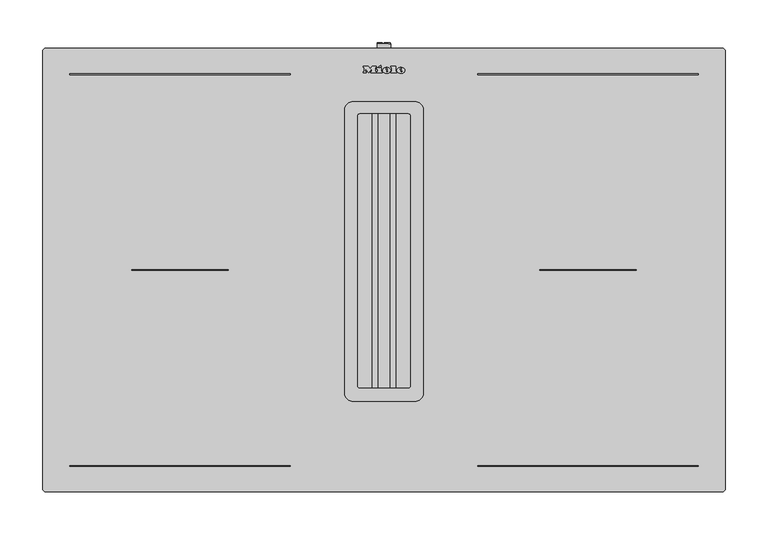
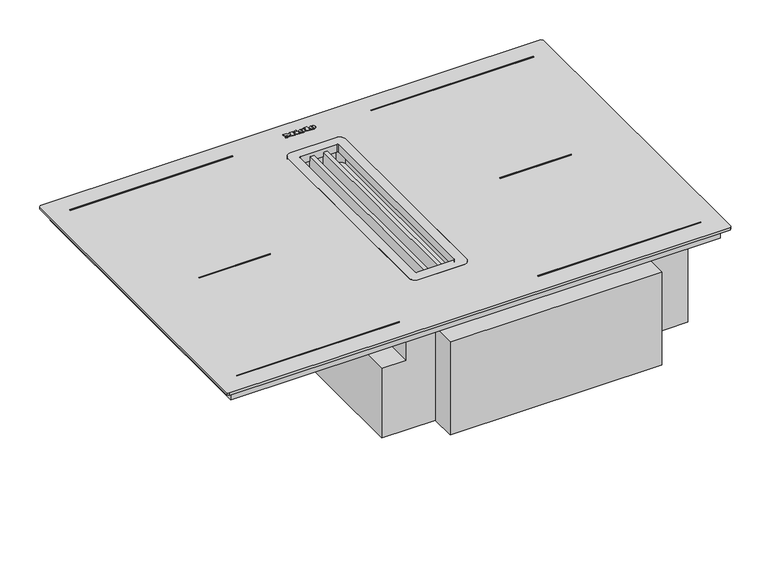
"""IFC4 building model written with IfcOpenShell, lengths in millimetres: proxy geometry, 12904890_BNI_KMDA7876-1FL : 26787675_BNI_12904890_KMDA7876-1FL."""

from ifc_helpers import new_model, si_unit, point, frame, frame_2d, origin, origin_with_axes, place, context, project, spatial, polyline, circle_curve, ellipse_curve, trimmed, segment, composite_curve, outline, extrude, source, transform, mapped, element, save
from ifc_brep_helpers import plane_surface, cylinder_surface, revolved_surface, extruded_surface, advanced_brep


def specialty_equipment_94e3bbb6(model_context):
    return source(origin(), model_context, "Body", "SolidModel", [
        advanced_brep(
        [(19.088016, 492.896, 5.0), (19.088016, 493.704, 5.0), (24.440016, 493.704, 5.0), (15.128016, 493.704, 5.0), (17.328016, 491.0, 5.0), (24.304016, 492.896, 5.0), (21.888016, 492.896, 5.0), (19.984016, 492.0, 5.0), (19.088016, 494.728, 5.0), (19.088016, 495.6, 5.0), (20.456016, 495.6, 5.0), (20.456016, 494.728, 5.0), (19.088016, 492.896, 4.0), (19.984016, 492.0, 4.0), (21.888016, 492.896, 4.0), (24.304016, 492.896, 4.0), (17.328016, 491.0, 4.0), (15.128016, 493.704, 4.0), (24.440016, 493.704, 4.0), (19.088016, 493.704, 4.0), (19.088016, 494.728, 4.0), (20.456016, 494.728, 4.0), (20.456016, 495.6, 4.0), (19.088016, 495.6, 4.0)],
        [
            (0, 1),
            (1, 2),
            (2, 3, ellipse_curve(frame((19.784016, 493.704, 5.0), z_axis=(0.0, 0.0, 1.0), x_axis=(-1.0, 0.0, 0.0)), 4.656, 3.848)),
            (3, 4, circle_curve(frame((18.2240596, 493.976, 5.0), z_axis=(0.0, 0.0, 1.0), x_axis=(0.0, -1.0, 0.0)), 3.1079688)),
            (4, 5, circle_curve(frame((19.6908096, 496.088, 5.0), z_axis=(0.0, 0.0, 1.0), x_axis=(0.0, -1.0, 0.0)), 5.6098607)),
            (5, 6),
            (6, 7, circle_curve(frame((20.3750748, 493.64, 5.0), z_axis=(0.0, 0.0, -1.0), x_axis=(0.0, -1.0, 0.0)), 1.6859795)),
            (7, 0, circle_curve(frame((19.984016, 492.896, 5.0), z_axis=(0.0, 0.0, -1.0), x_axis=(0.0, -1.0, 0.0)), 0.896)),
            (8, 9),
            (9, 10, circle_curve(frame((19.772016, 495.6, 5.0), z_axis=(0.0, 0.0, -1.0), x_axis=(0.0, -1.0, 0.0)), 0.684)),
            (10, 11),
            (11, 8),
            (12, 13, circle_curve(frame((19.984016, 492.896, 4.0), z_axis=(0.0, 0.0, 1.0), x_axis=(0.0, -1.0, 0.0)), 0.896)),
            (13, 14, circle_curve(frame((20.3750748, 493.64, 4.0), z_axis=(0.0, 0.0, 1.0), x_axis=(0.0, -1.0, 0.0)), 1.6859795)),
            (14, 15),
            (15, 16, circle_curve(frame((19.6908096, 496.088, 4.0), z_axis=(0.0, 0.0, -1.0), x_axis=(0.0, -1.0, 0.0)), 5.6098607)),
            (16, 17, circle_curve(frame((18.2240596, 493.976, 4.0), z_axis=(0.0, 0.0, -1.0), x_axis=(0.0, -1.0, 0.0)), 3.1079688)),
            (17, 18, ellipse_curve(frame((19.784016, 493.704, 4.0), z_axis=(0.0, 0.0, -1.0), x_axis=(-1.0, 0.0, 0.0)), 4.656, 3.848)),
            (18, 19),
            (19, 12),
            (20, 21),
            (21, 22),
            (22, 23, circle_curve(frame((19.772016, 495.6, 4.0), z_axis=(0.0, 0.0, 1.0), x_axis=(0.0, -1.0, 0.0)), 0.684)),
            (23, 20),
            (0, 12),
            (19, 1),
            (18, 2),
            (5, 15),
            (14, 6),
            (17, 3),
            (13, 7),
            (16, 4),
            (8, 20),
            (23, 9),
            (22, 10),
            (21, 11),
        ],
        [
            plane_surface(frame((19.088016, 493.704, 5.0), z_axis=(0.0, 0.0, 1.0), x_axis=(0.0, 1.0, 0.0))),
            plane_surface(frame((19.088016, 493.704, 4.0), z_axis=(0.0, 0.0, -1.0), x_axis=(0.0, -1.0, 0.0))),
            plane_surface(frame((19.088016, 492.896, 5.0), z_axis=(1.0, 0.0, 0.0), x_axis=(0.0, 0.0, -1.0))),
            plane_surface(frame((19.088016, 493.704, 5.0), z_axis=(0.0, -1.0, 0.0), x_axis=(0.0, 0.0, -1.0))),
            plane_surface(frame((24.304016, 492.896, 5.0), z_axis=(0.0, 1.0, 0.0), x_axis=(0.0, 0.0, -1.0))),
            extruded_surface(trimmed(ellipse_curve(frame((19.784016, 493.704, 3.0), z_axis=(0.0, 0.0, 1.0), x_axis=(-1.0, 0.0, 0.0)), 4.656, 3.848), [point((24.440016, 493.704, 3.0))], [point((15.128016, 493.704, 3.0))], True, "CARTESIAN"), (0.0, 0.0, 1.0), 1.0),
            revolved_surface(polyline([(20.3750748, 491.9540205, 4.0), (20.3750748, 491.9540205, 5.0)]), (20.3750748, 493.64, 4.0), (0.0, 0.0, -1.0)),
            revolved_surface(polyline([(19.984016, 492.0, 4.0), (19.984016, 492.0, 5.0)]), (19.984016, 492.896, 4.0), (0.0, 0.0, -1.0)),
            cylinder_surface(frame((18.2240596, 493.976, 4.0), z_axis=(0.0, 0.0, 1.0), x_axis=(0.0, -1.0, 0.0)), 3.1079688),
            cylinder_surface(frame((19.6908096, 496.088, 4.0), z_axis=(0.0, 0.0, 1.0), x_axis=(0.0, -1.0, 0.0)), 5.6098607),
            plane_surface(frame((19.088016, 494.728, 5.0), z_axis=(1.0, 0.0, 0.0), x_axis=(0.0, 0.0, -1.0))),
            revolved_surface(polyline([(19.772016, 494.916, 4.0), (19.772016, 494.916, 5.0)]), (19.772016, 495.6, 4.0), (0.0, 0.0, -1.0)),
            plane_surface(frame((20.456016, 495.6, 5.0), z_axis=(-1.0, 0.0, 0.0), x_axis=(0.0, 0.0, -1.0))),
            plane_surface(frame((20.456016, 494.728, 5.0), z_axis=(0.0, 1.0, 0.0), x_axis=(0.0, 0.0, -1.0))),
        ],
        [
            (0, [[1, 2, 3, 4, 5, 6, 7, 8], [9, 10, 11, 12]]),
            (1, [[13, 14, 15, 16, 17, 18, 19, 20], [21, 22, 23, 24]]),
            (2, [[-1, 25, -20, 26]]),
            (3, [[-2, -26, -19, 27]]),
            (4, [[-6, 28, -15, 29]]),
            (5, [[-3, -27, -18, 30]]),
            (6, [[-7, -29, -14, 31]]),
            (7, [[-8, -31, -13, -25]]),
            (8, [[-4, -30, -17, 32]]),
            (9, [[-5, -32, -16, -28]]),
            (10, [[-9, 33, -24, 34]]),
            (11, [[-10, -34, -23, 35]]),
            (12, [[-11, -35, -22, 36]]),
            (13, [[-12, -36, -21, -33]]),
        ],
    ),
        advanced_brep(
        [(2.392016, 492.896, 5.0), (2.392016, 493.704, 5.0), (7.744016, 493.704, 5.0), (-1.567984, 493.704, 5.0), (0.632016, 491.0, 5.0), (7.608016, 492.896, 5.0), (5.192016, 492.896, 5.0), (3.288016, 492.0, 5.0), (2.392016, 494.728, 5.0), (2.392016, 495.6, 5.0), (3.760016, 495.6, 5.0), (3.760016, 494.728, 5.0), (2.392016, 492.896, 4.0), (3.288016, 492.0, 4.0), (5.192016, 492.896, 4.0), (7.608016, 492.896, 4.0), (0.632016, 491.0, 4.0), (-1.567984, 493.704, 4.0), (7.744016, 493.704, 4.0), (2.392016, 493.704, 4.0), (2.392016, 494.728, 4.0), (3.760016, 494.728, 4.0), (3.760016, 495.6, 4.0), (2.392016, 495.6, 4.0)],
        [
            (0, 1),
            (1, 2),
            (2, 3, ellipse_curve(frame((3.088016, 493.704, 5.0), z_axis=(0.0, 0.0, 1.0), x_axis=(-1.0, 0.0, 0.0)), 4.656, 3.848)),
            (3, 4, circle_curve(frame((1.5280596, 493.976, 5.0), z_axis=(0.0, 0.0, 1.0), x_axis=(0.0, -1.0, 0.0)), 3.1079688)),
            (4, 5, circle_curve(frame((2.9948096, 496.088, 5.0), z_axis=(0.0, 0.0, 1.0), x_axis=(0.0, -1.0, 0.0)), 5.6098607)),
            (5, 6),
            (6, 7, circle_curve(frame((3.6790748, 493.64, 5.0), z_axis=(0.0, 0.0, -1.0), x_axis=(0.0, -1.0, 0.0)), 1.6859795)),
            (7, 0, circle_curve(frame((3.288016, 492.896, 5.0), z_axis=(0.0, 0.0, -1.0), x_axis=(0.0, -1.0, 0.0)), 0.896)),
            (8, 9),
            (9, 10, circle_curve(frame((3.076016, 495.6, 5.0), z_axis=(0.0, 0.0, -1.0), x_axis=(0.0, -1.0, 0.0)), 0.684)),
            (10, 11),
            (11, 8),
            (12, 13, circle_curve(frame((3.288016, 492.896, 4.0), z_axis=(0.0, 0.0, 1.0), x_axis=(0.0, -1.0, 0.0)), 0.896)),
            (13, 14, circle_curve(frame((3.6790748, 493.64, 4.0), z_axis=(0.0, 0.0, 1.0), x_axis=(0.0, -1.0, 0.0)), 1.6859795)),
            (14, 15),
            (15, 16, circle_curve(frame((2.9948096, 496.088, 4.0), z_axis=(0.0, 0.0, -1.0), x_axis=(0.0, -1.0, 0.0)), 5.6098607)),
            (16, 17, circle_curve(frame((1.5280596, 493.976, 4.0), z_axis=(0.0, 0.0, -1.0), x_axis=(0.0, -1.0, 0.0)), 3.1079688)),
            (17, 18, ellipse_curve(frame((3.088016, 493.704, 4.0), z_axis=(0.0, 0.0, -1.0), x_axis=(-1.0, 0.0, 0.0)), 4.656, 3.848)),
            (18, 19),
            (19, 12),
            (20, 21),
            (21, 22),
            (22, 23, circle_curve(frame((3.076016, 495.6, 4.0), z_axis=(0.0, 0.0, 1.0), x_axis=(0.0, -1.0, 0.0)), 0.684)),
            (23, 20),
            (0, 12),
            (19, 1),
            (18, 2),
            (5, 15),
            (14, 6),
            (17, 3),
            (13, 7),
            (16, 4),
            (8, 20),
            (23, 9),
            (22, 10),
            (21, 11),
        ],
        [
            plane_surface(frame((2.392016, 493.704, 5.0), z_axis=(0.0, 0.0, 1.0), x_axis=(0.0, 1.0, 0.0))),
            plane_surface(frame((2.392016, 493.704, 4.0), z_axis=(0.0, 0.0, -1.0), x_axis=(0.0, -1.0, 0.0))),
            plane_surface(frame((2.392016, 492.896, 5.0), z_axis=(1.0, 0.0, 0.0), x_axis=(0.0, 0.0, -1.0))),
            plane_surface(frame((2.392016, 493.704, 5.0), z_axis=(0.0, -1.0, 0.0), x_axis=(0.0, 0.0, -1.0))),
            plane_surface(frame((7.608016, 492.896, 5.0), z_axis=(0.0, 1.0, 0.0), x_axis=(0.0, 0.0, -1.0))),
            extruded_surface(trimmed(ellipse_curve(frame((3.088016, 493.704, 3.0), z_axis=(0.0, 0.0, 1.0), x_axis=(-1.0, 0.0, 0.0)), 4.656, 3.848), [point((7.744016, 493.704, 3.0))], [point((-1.567984, 493.704, 3.0))], True, "CARTESIAN"), (0.0, 0.0, 1.0), 1.0),
            revolved_surface(polyline([(3.6790748, 491.9540205, 4.0), (3.6790748, 491.9540205, 5.0)]), (3.6790748, 493.64, 4.0), (0.0, 0.0, -1.0)),
            revolved_surface(polyline([(3.288016, 492.0, 4.0), (3.288016, 492.0, 5.0)]), (3.288016, 492.896, 4.0), (0.0, 0.0, -1.0)),
            cylinder_surface(frame((1.5280596, 493.976, 4.0), z_axis=(0.0, 0.0, 1.0), x_axis=(0.0, -1.0, 0.0)), 3.1079688),
            cylinder_surface(frame((2.9948096, 496.088, 4.0), z_axis=(0.0, 0.0, 1.0), x_axis=(0.0, -1.0, 0.0)), 5.6098607),
            plane_surface(frame((2.392016, 494.728, 5.0), z_axis=(1.0, 0.0, 0.0), x_axis=(0.0, 0.0, -1.0))),
            revolved_surface(polyline([(3.076016, 494.916, 4.0), (3.076016, 494.916, 5.0)]), (3.076016, 495.6, 4.0), (0.0, 0.0, -1.0)),
            plane_surface(frame((3.760016, 495.6, 5.0), z_axis=(-1.0, 0.0, 0.0), x_axis=(0.0, 0.0, -1.0))),
            plane_surface(frame((3.760016, 494.728, 5.0), z_axis=(0.0, 1.0, 0.0), x_axis=(0.0, 0.0, -1.0))),
        ],
        [
            (0, [[1, 2, 3, 4, 5, 6, 7, 8], [9, 10, 11, 12]]),
            (1, [[13, 14, 15, 16, 17, 18, 19, 20], [21, 22, 23, 24]]),
            (2, [[-1, 25, -20, 26]]),
            (3, [[-2, -26, -19, 27]]),
            (4, [[-6, 28, -15, 29]]),
            (5, [[-3, -27, -18, 30]]),
            (6, [[-7, -29, -14, 31]]),
            (7, [[-8, -31, -13, -25]]),
            (8, [[-4, -30, -17, 32]]),
            (9, [[-5, -32, -16, -28]]),
            (10, [[-9, 33, -24, 34]]),
            (11, [[-10, -34, -23, 35]]),
            (12, [[-11, -35, -22, 36]]),
            (13, [[-12, -36, -21, -33]]),
        ],
    ),
        extrude(outline(polyline([(-6.351984, 498.528), (-3.631984, 499.792), (-3.031984, 498.496), (-5.743984, 497.232), (-6.351984, 498.528)])), frame((0.0, 0.0, 4.0), z_axis=(0.0, 0.0, 1.0), x_axis=(1.0, 0.0, 0.0)), (0.0, 0.0, 1.0), 1.0),
        extrude(outline(polyline([(-8.327984, 497.056), (-2.943984, 497.056), (-2.943984, 492.344), (-2.015984, 492.344), (-2.015984, 491.0), (-8.327984, 491.0), (-8.327984, 492.344), (-7.375984, 492.344), (-7.375984, 495.624), (-8.327984, 495.624), (-8.327984, 497.056)])), frame((0.0, 0.0, 4.0), z_axis=(0.0, 0.0, 1.0), x_axis=(1.0, 0.0, 0.0)), (0.0, 0.0, 1.0), 1.0),
        extrude(outline(polyline([(8.192016, 497.696), (8.192016, 499.0), (13.696016, 499.0), (13.696016, 492.344), (14.680016, 492.344), (14.680016, 491.0), (8.192016, 491.0), (8.192016, 492.344), (9.152016, 492.344), (9.152016, 497.696), (8.192016, 497.696)])), frame((0.0, 0.0, 4.0), z_axis=(0.0, 0.0, 1.0), x_axis=(1.0, 0.0, 0.0)), (0.0, 0.0, 1.0), 1.0),
        extrude(outline(polyline([(-24.271984, 497.696), (-24.271984, 499.0), (-18.695984, 499.0), (-16.351984, 496.0), (-14.015984, 499.0), (-9.143984, 499.0), (-9.143984, 497.696), (-10.159984, 497.696), (-10.159984, 492.344), (-9.143984, 492.344), (-9.143984, 491.0), (-15.527984, 491.0), (-15.527984, 492.344), (-14.543984, 492.344), (-14.543984, 495.8152223), (-18.135984, 491.0), (-21.711984, 495.7471247), (-21.711984, 492.344), (-20.751984, 492.344), (-20.751984, 491.0), (-24.271984, 491.0), (-24.271984, 492.344), (-23.303984, 492.344), (-23.303984, 497.696), (-24.271984, 497.696)])), frame((0.0, 0.0, 4.0), z_axis=(0.0, 0.0, 1.0), x_axis=(1.0, 0.0, 0.0)), (0.0, 0.0, 1.0), 1.0),
        extrude(outline(polyline([(-368.065788, 489.8634331), (-110.065788, 489.8634331), (-110.065788, 489.0732086), (-368.065788, 489.0732086), (-368.065788, 489.8634331)])), frame((0.0, 0.0, 4.0), z_axis=(0.0, 0.0, 1.0), x_axis=(1.0, 0.0, 0.0)), (0.0, 0.0, 1.0), 1.0),
        extrude(outline(polyline([(368.065788, 489.8634331), (368.065788, 489.0732086), (110.065788, 489.0732086), (110.065788, 489.8634331), (368.065788, 489.8634331)])), frame((0.0, 0.0, 4.0), z_axis=(0.0, 0.0, 1.0), x_axis=(1.0, 0.0, 0.0)), (0.0, 0.0, 1.0), 1.0),
        extrude(outline(polyline([(-368.065788, 30.1365667), (-368.065788, 30.9267912), (-110.065788, 30.9267912), (-110.065788, 30.1365667), (-368.065788, 30.1365667)])), frame((0.0, 0.0, 4.0), z_axis=(0.0, 0.0, 1.0), x_axis=(1.0, 0.0, 0.0)), (0.0, 0.0, 1.0), 1.0),
        extrude(outline(polyline([(368.065788, 30.1365667), (110.065788, 30.1365667), (110.065788, 30.9267912), (368.065788, 30.9267912), (368.065788, 30.1365667)])), frame((0.0, 0.0, 4.0), z_axis=(0.0, 0.0, 1.0), x_axis=(1.0, 0.0, 0.0)), (0.0, 0.0, 1.0), 1.0),
        extrude(outline(polyline([(-295.5, 260.3951122), (-182.5, 260.3951122), (-182.5, 259.6048876), (-295.5, 259.6048876), (-295.5, 260.3951122)])), frame((0.0, 0.0, 4.0), z_axis=(0.0, 0.0, 1.0), x_axis=(1.0, 0.0, 0.0)), (0.0, 0.0, 1.0), 1.0),
        extrude(outline(polyline([(295.5, 260.3951122), (295.5, 259.6048876), (182.5, 259.6048876), (182.5, 260.3951122), (295.5, 260.3951122)])), frame((0.0, 0.0, 4.0), z_axis=(0.0, 0.0, 1.0), x_axis=(1.0, 0.0, 0.0)), (0.0, 0.0, 1.0), 1.0),
        extrude(outline(composite_curve([segment(polyline([(-45.9999987, 115.9999992), (-45.9999987, 447.4999992)]), True, "CONTINUOUS"), segment(trimmed(circle_curve(frame_2d((-35.9999987, 447.4999992)), 10.0), [point((-45.9999987, 447.4999992))], [point((-35.9999987, 457.4999992))], False, "CARTESIAN"), True, "CONTINUOUS"), segment(polyline([(-35.9999987, 457.4999992), (35.9999987, 457.4999992)]), True, "CONTINUOUS"), segment(trimmed(circle_curve(frame_2d((35.9999987, 447.4999992)), 10.0), [point((35.9999987, 457.4999992))], [point((45.9999987, 447.4999992))], False, "CARTESIAN"), True, "CONTINUOUS"), segment(polyline([(45.9999987, 447.4999992), (45.9999987, 115.9999992)]), True, "CONTINUOUS"), segment(trimmed(circle_curve(frame_2d((35.9999987, 115.9999992)), 10.0), [point((45.9999987, 115.9999992))], [point((35.9999987, 105.9999992))], False, "CARTESIAN"), True, "CONTINUOUS"), segment(polyline([(35.9999987, 105.9999992), (-35.9999987, 105.9999992)]), True, "CONTINUOUS"), segment(trimmed(circle_curve(frame_2d((-35.9999987, 115.9999992)), 10.0), [point((-35.9999987, 105.9999992))], [point((-45.9999987, 115.9999992))], False, "CARTESIAN"), True, "CONTINUOUS")], self_intersect=False), holes=[composite_curve([segment(trimmed(circle_curve(frame_2d((-28.688139, 124.1576538)), 2.0), [point((-30.688139, 124.1576538))], [point((-28.688139, 122.1576538))], True, "CARTESIAN"), True, "CONTINUOUS"), segment(polyline([(-28.688139, 122.1576538), (28.688139, 122.1576538)]), True, "CONTINUOUS"), segment(trimmed(circle_curve(frame_2d((28.688139, 124.1576538)), 2.0), [point((28.688139, 122.1576538))], [point((30.688139, 124.1576538))], True, "CARTESIAN"), True, "CONTINUOUS"), segment(polyline([(30.688139, 124.1576538), (30.688139, 440.9186707)]), True, "CONTINUOUS"), segment(trimmed(circle_curve(frame_2d((28.688139, 440.9186707)), 2.0), [point((30.688139, 440.9186707))], [point((28.688139, 442.9186707))], True, "CARTESIAN"), True, "CONTINUOUS"), segment(polyline([(28.688139, 442.9186707), (-28.688139, 442.9186707)]), True, "CONTINUOUS"), segment(trimmed(circle_curve(frame_2d((-28.688139, 440.9186707)), 2.0), [point((-28.688139, 442.9186707))], [point((-30.688139, 440.9186707))], True, "CARTESIAN"), True, "CONTINUOUS"), segment(polyline([(-30.688139, 440.9186707), (-30.688139, 124.1576538)]), True, "CONTINUOUS")], self_intersect=False)]), frame((0.0, 0.0, -8.5215403), z_axis=(0.0, 0.0, 1.0), x_axis=(1.0, 0.0, 0.0)), (0.0, 0.0, 1.0), 12.5215403),
        extrude(outline(polyline([(-343.1216701, 96.3863349), (-343.1216701, 495.0), (-75.402586, 495.0), (-75.402586, 96.3863349), (-343.1216701, 96.3863349)])), frame((0.0, 0.0, -46.5), z_axis=(0.0, 0.0, 1.0), x_axis=(1.0, 0.0, 0.0)), (0.0, 0.0, 1.0), 28.6958097),
        extrude(outline(polyline([(336.1107845, 495.0), (336.1107845, 96.3863349), (104.0, 96.3863349), (104.0, 495.0), (336.1107845, 495.0)])), frame((0.0, 0.0, -46.5), z_axis=(0.0, 0.0, 1.0), x_axis=(1.0, 0.0, 0.0)), (0.0, 0.0, 1.0), 28.6958097),
        extrude(outline(polyline([(388.5, 508.4999986), (388.5, 11.4999971), (-388.5, 11.4999971), (-388.5, 508.4999986), (388.5, 508.4999986)]), holes=[composite_curve([segment(polyline([(45.9999987, 115.9999979), (45.9999987, 447.4999992)]), True, "CONTINUOUS"), segment(trimmed(circle_curve(frame_2d((35.9999987, 447.4999992)), 10.0), [point((45.9999987, 447.4999992))], [point((35.9999987, 457.4999992))], True, "CARTESIAN"), True, "CONTINUOUS"), segment(polyline([(35.9999987, 457.4999992), (-35.9999987, 457.4999992)]), True, "CONTINUOUS"), segment(trimmed(circle_curve(frame_2d((-35.9999987, 447.4999992)), 10.0), [point((-35.9999987, 457.4999992))], [point((-45.9999987, 447.4999992))], True, "CARTESIAN"), True, "CONTINUOUS"), segment(polyline([(-45.9999987, 447.4999992), (-45.9999987, 115.9999979)]), True, "CONTINUOUS"), segment(trimmed(circle_curve(frame_2d((-36.0, 115.9999979)), 9.9999987), [point((-45.9999987, 115.9999979))], [point((-36.0, 105.9999992))], True, "CARTESIAN"), True, "CONTINUOUS"), segment(polyline([(-36.0, 105.9999992), (36.0, 105.9999992)]), True, "CONTINUOUS"), segment(trimmed(circle_curve(frame_2d((36.0, 115.9999979)), 9.9999987), [point((36.0, 105.9999992))], [point((45.9999987, 115.9999979))], True, "CARTESIAN"), True, "CONTINUOUS")], self_intersect=False)]), frame((0.0, 0.0, -17.8041903), z_axis=(0.0, 0.0, 1.0), x_axis=(1.0, 0.0, 0.0)), (0.0, 0.0, 1.0), 17.8041903),
        extrude(outline(polyline([(397.5, 520.0), (400.0, 517.5), (400.0, 2.5), (397.5, 0.0), (-397.5, 0.0), (-400.0, 2.5), (-400.0, 517.5), (-397.5, 520.0), (397.5, 520.0)]), holes=[composite_curve([segment(polyline([(35.9999987, 457.4999992), (-35.9999987, 457.4999992)]), True, "CONTINUOUS"), segment(trimmed(circle_curve(frame_2d((-35.9999987, 447.4999992)), 10.0), [point((-35.9999987, 457.4999992))], [point((-45.9999987, 447.4999992))], True, "CARTESIAN"), True, "CONTINUOUS"), segment(polyline([(-45.9999987, 447.4999992), (-45.9999987, 115.9999979)]), True, "CONTINUOUS"), segment(trimmed(circle_curve(frame_2d((-36.0, 115.9999979)), 9.9999987), [point((-45.9999987, 115.9999979))], [point((-36.0, 105.9999992))], True, "CARTESIAN"), True, "CONTINUOUS"), segment(polyline([(-36.0, 105.9999992), (36.0, 105.9999992)]), True, "CONTINUOUS"), segment(trimmed(circle_curve(frame_2d((36.0, 115.9999979)), 9.9999987), [point((36.0, 105.9999992))], [point((45.9999987, 115.9999979))], True, "CARTESIAN"), True, "CONTINUOUS"), segment(polyline([(45.9999987, 115.9999979), (45.9999987, 447.4999992)]), True, "CONTINUOUS"), segment(trimmed(circle_curve(frame_2d((35.9999987, 447.4999992)), 10.0), [point((45.9999987, 447.4999992))], [point((35.9999987, 457.4999992))], True, "CARTESIAN"), True, "CONTINUOUS")], self_intersect=False)]), origin_with_axes(), (0.0, 0.0, 1.0), 4.0),
        extrude(outline(composite_curve([segment(trimmed(circle_curve(frame_2d((-148.0, 170.0)), 78.9393921), [point((-148.0, 91.0606079))], [point((-148.0, 248.9393921))], False, "CARTESIAN"), True, "CONTINUOUS"), segment(trimmed(circle_curve(frame_2d((-148.0, 170.0)), 78.9393921), [point((-148.0, 248.9393921))], [point((-148.0, 91.0606079))], False, "CARTESIAN"), True, "CONTINUOUS")], self_intersect=False), holes=[composite_curve([segment(trimmed(circle_curve(frame_2d((-148.0, 170.0)), 77.9393921), [point((-148.0, 92.0606079))], [point((-148.0, 247.9393921))], True, "CARTESIAN"), True, "CONTINUOUS"), segment(trimmed(circle_curve(frame_2d((-148.0, 170.0)), 77.9393921), [point((-148.0, 247.9393921))], [point((-148.0, 92.0606079))], True, "CARTESIAN"), True, "CONTINUOUS")], self_intersect=False)]), frame((0.0, 426.3304607, 0.0), z_axis=(0.0, 1.0, 0.0), x_axis=(0.0, 0.0, 1.0)), (0.0, 0.0, 1.0), 17.9123918),
        extrude(outline(polyline([(-13.6048155, 120.1989746), (-13.6048155, 443.7301863), (-7.3951845, 443.7301863), (-7.3951845, 120.1989746), (-13.6048155, 120.1989746)])), frame((0.0, 0.0, -26.3132825), z_axis=(0.0, 0.0, 1.0), x_axis=(1.0, 0.0, 0.0)), (0.0, 0.0, 1.0), 24.7104098),
        extrude(outline(polyline([(13.6048155, 120.1989746), (7.3951845, 120.1989746), (7.3951845, 443.7301863), (13.6048155, 443.7301863), (13.6048155, 120.1989746)])), frame((0.0, 0.0, -26.3132825), z_axis=(0.0, 0.0, 1.0), x_axis=(1.0, 0.0, 0.0)), (0.0, 0.0, 1.0), 24.7104098),
        advanced_brep(
        [(53.6506051, 96.5541828, -54.0), (52.4705494, 96.5541828, -54.0), (52.4705494, 96.5541828, -17.8041903), (-52.4705494, 96.5541828, -17.8041903), (-52.4705494, 96.5541828, -54.0), (-60.8014535, 96.5541828, -54.0), (-60.8014535, 96.5541828, -117.5), (-100.1207428, 96.5541828, -117.5), (-100.1207428, 96.5541828, -234.0), (-15.0, 96.5541828, -234.0), (-15.0, 96.5541828, -77.5), (53.6506051, 96.5541828, -77.5), (-100.1207428, 495.5, -234.0), (-100.1207428, 495.5, -117.5), (-60.8014535, 495.5, -117.5), (-60.8014535, 495.5, -54.0), (-52.4705494, 495.5, -54.0), (-52.4705494, 495.5, -17.8041903), (52.4705494, 495.5, -17.8041903), (52.4705494, 495.5, -54.0), (53.6506051, 495.5, -54.0), (53.6506051, 495.5, -234.0), (53.6506051, 101.0, -77.5), (53.6506051, 101.0, -56.9972547), (53.6506051, 426.3304607, -56.9972547), (53.6506051, 426.3304607, -234.0), (45.9999987, 447.4999992, -17.8041903), (45.9999987, 115.9999979, -17.8041903), (36.0, 105.9999992, -17.8041903), (-36.0, 105.9999992, -17.8041903), (-45.9999987, 115.9999979, -17.8041903), (-45.9999987, 447.4999992, -17.8041903), (-35.9999987, 457.4999992, -17.8041903), (35.9999987, 457.4999992, -17.8041903), (388.5, 101.0, -56.9972547), (321.1107845, 101.0, -77.5), (321.1107845, 101.0, -213.2731462), (388.5, 101.0, -213.2731462), (388.5, 426.3304607, -56.9972547), (388.5, 426.3304607, -213.2731462), (342.3970703, 426.3304607, -213.2731462), (342.3970703, 426.3304607, -234.0), (342.3970703, 388.6357055, -234.0), (380.8010657, 352.3414513, -234.0), (380.8010657, 214.7386902, -234.0), (267.9814513, 109.112153, -234.0), (321.1107845, 109.112153, -234.0), (321.1107845, 55.7496808, -234.0), (-15.0, 55.7496808, -234.0), (380.8010657, 214.7386902, -213.2731462), (380.8010657, 352.3414513, -213.2731462), (342.3970703, 388.6357055, -213.2731462), (321.1107845, 109.112153, -213.2731462), (267.9814513, 109.112153, -213.2731462), (45.9999987, 115.9999979, -38.2608409), (45.9999987, 447.4999992, -38.2608409), (35.9999987, 457.4999992, -38.2608409), (-35.9999987, 457.4999992, -38.2608409), (-45.9999987, 447.4999992, -38.2608409), (-45.9999987, 115.9999979, -38.2608409), (-36.0, 105.9999992, -38.2608409), (36.0, 105.9999992, -38.2608409), (-15.0, 55.7496808, -77.5), (321.1107845, 55.7496808, -77.5)],
        [
            (0, 1),
            (1, 2),
            (2, 3),
            (3, 4),
            (4, 5),
            (5, 6),
            (6, 7),
            (7, 8),
            (8, 9),
            (9, 10),
            (10, 11),
            (11, 0),
            (12, 13),
            (13, 14),
            (14, 15),
            (15, 16),
            (16, 17),
            (17, 18),
            (18, 19),
            (19, 20),
            (20, 21),
            (21, 12),
            (20, 0),
            (11, 22),
            (22, 23),
            (23, 24),
            (24, 25),
            (25, 21),
            (19, 1),
            (18, 2),
            (17, 3),
            (26, 27),
            (27, 28, circle_curve(frame((36.0, 115.9999979, -17.8041903), z_axis=(0.0, 0.0, -1.0), x_axis=(1.0, 0.0, 0.0)), 9.9999987)),
            (28, 29),
            (29, 30, circle_curve(frame((-36.0, 115.9999979, -17.8041903), z_axis=(0.0, 0.0, -1.0), x_axis=(1.0, 0.0, 0.0)), 9.9999987)),
            (30, 31),
            (31, 32, circle_curve(frame((-35.9999987, 447.4999992, -17.8041903), z_axis=(0.0, 0.0, -1.0), x_axis=(1.0, 0.0, 0.0)), 10.0)),
            (32, 33),
            (33, 26, circle_curve(frame((35.9999987, 447.4999992, -17.8041903), z_axis=(0.0, 0.0, -1.0), x_axis=(1.0, 0.0, 0.0)), 10.0)),
            (16, 4),
            (15, 5),
            (14, 6),
            (13, 7),
            (12, 8),
            (34, 23),
            (22, 35),
            (35, 36),
            (36, 37),
            (37, 34),
            (24, 38),
            (38, 39),
            (39, 40),
            (40, 41),
            (41, 25),
            (38, 34),
            (37, 39),
            (41, 42),
            (42, 43, circle_curve(frame((322.8680046, 329.506125, -234.0), z_axis=(0.0, 0.0, -1.0), x_axis=(1.0, 0.0, 0.0)), 62.2711145)),
            (43, 44),
            (44, 45, circle_curve(frame((212.1419224, 281.8188418, -234.0), z_axis=(0.0, 0.0, -1.0), x_axis=(1.0, 0.0, 0.0)), 181.5093753)),
            (45, 46),
            (46, 47),
            (47, 48),
            (48, 9),
            (49, 50),
            (50, 51, circle_curve(frame((322.8680046, 329.506125, -213.2731462), z_axis=(0.0, 0.0, 1.0), x_axis=(1.0, 0.0, 0.0)), 62.2711145)),
            (51, 40),
            (36, 52),
            (52, 53),
            (53, 49, circle_curve(frame((212.1419224, 281.8188418, -213.2731462), z_axis=(0.0, 0.0, 1.0), x_axis=(1.0, 0.0, 0.0)), 181.5093753)),
            (49, 44),
            (43, 50),
            (53, 45),
            (51, 42),
            (54, 55),
            (55, 56, circle_curve(frame((35.9999987, 447.4999992, -38.2608409), z_axis=(0.0, 0.0, 1.0), x_axis=(1.0, 0.0, 0.0)), 10.0)),
            (56, 57),
            (57, 58, circle_curve(frame((-35.9999987, 447.4999992, -38.2608409), z_axis=(0.0, 0.0, 1.0), x_axis=(1.0, 0.0, 0.0)), 10.0)),
            (58, 59),
            (59, 60, circle_curve(frame((-36.0, 115.9999979, -38.2608409), z_axis=(0.0, 0.0, 1.0), x_axis=(1.0, 0.0, 0.0)), 9.9999987)),
            (60, 61),
            (61, 54, circle_curve(frame((36.0, 115.9999979, -38.2608409), z_axis=(0.0, 0.0, 1.0), x_axis=(1.0, 0.0, 0.0)), 9.9999987)),
            (54, 27),
            (26, 55),
            (33, 56),
            (32, 57),
            (31, 58),
            (30, 59),
            (29, 60),
            (28, 61),
            (62, 48),
            (47, 63),
            (63, 62),
            (52, 46),
            (62, 10),
            (35, 63),
        ],
        [
            plane_surface(frame((380.8010657, 96.5541828, -234.0), z_axis=(0.0, -1.0, 0.0), x_axis=(1.0, 0.0, 0.0))),
            plane_surface(frame((380.8010657, 495.5, -234.0), z_axis=(0.0, 1.0, 0.0), x_axis=(-1.0, 0.0, 0.0))),
            plane_surface(frame((53.6506051, 96.5541828, -234.0), z_axis=(1.0, 0.0, 0.0), x_axis=(0.0, 1.0, 0.0))),
            plane_surface(frame((53.6506051, 96.5541828, -54.0), z_axis=(0.0, 0.0, 1.0), x_axis=(0.0, 1.0, 0.0))),
            plane_surface(frame((52.4705494, 96.5541828, -54.0), z_axis=(1.0, 0.0, 0.0), x_axis=(0.0, 1.0, 0.0))),
            plane_surface(frame((52.4705494, 96.5541828, -17.8041903), z_axis=(0.0, 0.0, 1.0), x_axis=(0.0, 1.0, 0.0))),
            plane_surface(frame((-52.4705494, 96.5541828, -17.8041903), z_axis=(-1.0, 0.0, 0.0), x_axis=(0.0, 1.0, 0.0))),
            plane_surface(frame((-52.4705494, 96.5541828, -54.0), z_axis=(0.0, 0.0, 1.0), x_axis=(0.0, 1.0, 0.0))),
            plane_surface(frame((-60.8014535, 96.5541828, -54.0), z_axis=(-1.0, 0.0, 0.0), x_axis=(0.0, 1.0, 0.0))),
            plane_surface(frame((-60.8014535, 96.5541828, -117.5), z_axis=(0.0, 0.0, 1.0), x_axis=(0.0, 1.0, 0.0))),
            plane_surface(frame((-100.1207428, 96.5541828, -117.5), z_axis=(-1.0, 0.0, 0.0), x_axis=(0.0, 1.0, 0.0))),
            plane_surface(frame((53.7285029, 101.0, -56.9972547), z_axis=(0.0, -1.0, 0.0), x_axis=(-1.0, 0.0, 0.0))),
            plane_surface(frame((53.7285029, 426.3304607, -56.9972547), z_axis=(0.0, 1.0, 0.0), x_axis=(1.0, 0.0, 0.0))),
            plane_surface(frame((388.5, 101.0, -234.0), z_axis=(1.0, 0.0, 0.0), x_axis=(0.0, 1.0, 0.0))),
            plane_surface(frame((388.5, 101.0, -56.9972547), z_axis=(0.0, 0.0, 1.0), x_axis=(0.0, 1.0, 0.0))),
            plane_surface(frame((53.6506051, 101.0, -234.0), z_axis=(0.0, 0.0, -1.0), x_axis=(0.0, 1.0, 0.0))),
            plane_surface(frame((342.3970703, 388.6357055, -213.2731462), z_axis=(0.0, 0.0, -1.0), x_axis=(0.0, -1.0, 0.0))),
            plane_surface(frame((380.8010657, 352.3414513, -213.2731462), z_axis=(1.0, 0.0, 0.0), x_axis=(0.0, 0.0, -1.0))),
            cylinder_surface(frame((212.1419224, 281.8188418, -301.7152941), z_axis=(0.0, 0.0, -1.0), x_axis=(1.0, 0.0, 0.0)), 181.5093753),
            plane_surface(frame((342.3970703, 437.085126, -213.2731462), z_axis=(1.0, 0.0, 0.0), x_axis=(0.0, 0.0, -1.0))),
            cylinder_surface(frame((322.8680046, 329.506125, -301.7152941), z_axis=(0.0, 0.0, -1.0), x_axis=(1.0, 0.0, 0.0)), 62.2711145),
            plane_surface(frame((45.9999987, 447.4999992, -38.2608409), z_axis=(0.0, 0.0, 1.0), x_axis=(0.0, -1.0, 0.0))),
            plane_surface(frame((45.9999987, 115.9999979, 48.6771451), z_axis=(-1.0, 0.0, 0.0), x_axis=(0.0, 0.0, -1.0))),
            revolved_surface(polyline([(45.9999987, 447.4999992, -17.8041903), (45.9999987, 447.4999992, -38.2608409)]), (35.9999987, 447.4999992, -38.2608409), (0.0, 0.0, 1.0)),
            plane_surface(frame((35.9999987, 457.4999992, 48.6771451), z_axis=(0.0, -1.0, 0.0), x_axis=(0.0, 0.0, -1.0))),
            revolved_surface(polyline([(-25.9999987, 447.4999992, -17.8041903), (-25.9999987, 447.4999992, -38.2608409)]), (-35.9999987, 447.4999992, -38.2608409), (0.0, 0.0, 1.0)),
            plane_surface(frame((-45.9999987, 447.4999992, 48.6771451), z_axis=(1.0, 0.0, 0.0), x_axis=(0.0, 0.0, -1.0))),
            revolved_surface(polyline([(-26.0000013, 115.9999979, -17.8041903), (-26.0000013, 115.9999979, -38.2608409)]), (-36.0, 115.9999979, -38.2608409), (0.0, 0.0, 1.0)),
            plane_surface(frame((-36.0, 105.9999992, 48.6771451), z_axis=(0.0, 1.0, 0.0), x_axis=(0.0, 0.0, -1.0))),
            revolved_surface(polyline([(45.9999987, 115.9999979, -17.8041903), (45.9999987, 115.9999979, -38.2608409)]), (36.0, 115.9999979, -38.2608409), (0.0, 0.0, 1.0)),
            plane_surface(frame((-15.0, 55.7496808, -92.8266525), z_axis=(0.0, -1.0, 0.0), x_axis=(0.0, 0.0, -1.0))),
            plane_surface(frame((-15.0, 109.112153, -92.8266525), z_axis=(0.0, 1.0, 0.0), x_axis=(0.0, 0.0, 1.0))),
            plane_surface(frame((-15.0, 55.7496808, -77.5), z_axis=(-1.0, 0.0, 0.0), x_axis=(0.0, 1.0, 0.0))),
            plane_surface(frame((321.1107845, 55.7496808, -234.0), z_axis=(1.0, 0.0, 0.0), x_axis=(0.0, 1.0, 0.0))),
            plane_surface(frame((321.1107845, 55.7496808, -77.5), z_axis=(0.0, 0.0, 1.0), x_axis=(0.0, 1.0, 0.0))),
        ],
        [
            (0, [[1, 2, 3, 4, 5, 6, 7, 8, 9, 10, 11, 12]]),
            (1, [[13, 14, 15, 16, 17, 18, 19, 20, 21, 22]]),
            (2, [[-21, 23, -12, 24, 25, 26, 27, 28]]),
            (3, [[-1, -23, -20, 29]]),
            (4, [[-2, -29, -19, 30]]),
            (5, [[-3, -30, -18, 31], [32, 33, 34, 35, 36, 37, 38, 39]]),
            (6, [[-4, -31, -17, 40]]),
            (7, [[-5, -40, -16, 41]]),
            (8, [[-6, -41, -15, 42]]),
            (9, [[-7, -42, -14, 43]]),
            (10, [[-8, -43, -13, 44]]),
            (11, [[45, -25, 46, 47, 48, 49]]),
            (12, [[50, 51, 52, 53, 54, -27]]),
            (13, [[55, -49, 56, -51]]),
            (14, [[-45, -55, -50, -26]]),
            (15, [[-54, 57, 58, 59, 60, 61, 62, 63, 64, -9, -44, -22, -28]]),
            (16, [[65, 66, 67, -52, -56, -48, 68, 69, 70]]),
            (17, [[-65, 71, -59, 72]]),
            (18, [[-71, -70, 73, -60]]),
            (19, [[-67, 74, -57, -53]]),
            (20, [[-66, -72, -58, -74]]),
            (21, [[75, 76, 77, 78, 79, 80, 81, 82]]),
            (22, [[-75, 83, -32, 84]]),
            (23, [[-76, -84, -39, 85]]),
            (24, [[-77, -85, -38, 86]]),
            (25, [[-78, -86, -37, 87]]),
            (26, [[-79, -87, -36, 88]]),
            (27, [[-80, -88, -35, 89]]),
            (28, [[-81, -89, -34, 90]]),
            (29, [[-82, -90, -33, -83]]),
            (30, [[91, -63, 92, 93]]),
            (31, [[-61, -73, -69, 94]]),
            (32, [[-91, 95, -10, -64]]),
            (33, [[-92, -62, -94, -68, -47, 96]]),
            (34, [[-93, -96, -46, -24, -11, -95]]),
        ],
    ),
        extrude(outline(polyline([(-110.0337615, 7.3772603), (-99.9881305, 7.3772603), (-99.9881305, 0.156963), (-101.2438343, 0.156963), (-101.2438343, 6.1215564), (-104.226131, 6.1215564), (-104.226131, 0.470889), (-105.4818349, 0.470889), (-105.4818349, 6.1215564), (-108.7780576, 6.1215564), (-108.7780576, 0.0), (-110.0337615, 0.0), (-110.0337615, 7.3772603)])), frame((0.0, 525.5, 0.0), z_axis=(0.0, 1.0, 0.0), x_axis=(0.0, 0.0, 1.0)), (0.0, 0.0, 1.0), 1.0),
        extrude(outline(polyline([(-110.0337615, -1.8835558), (-99.9881305, -1.8835558), (-99.9881305, -3.1392597), (-108.7780576, -3.1392597), (-108.7780576, -8.1620752), (-110.0337615, -8.1620752), (-110.0337615, -1.8835558)])), frame((0.0, 525.5, 0.0), z_axis=(0.0, 1.0, 0.0), x_axis=(0.0, 0.0, 1.0)), (0.0, 0.0, 1.0), 1.0),
        extrude(outline(composite_curve([segment(trimmed(circle_curve(frame_2d((-105.3066032, 0.0)), 8.0), [point((-105.3066032, -8.0))], [point((-105.3066032, 8.0))], False, "CARTESIAN"), True, "CONTINUOUS"), segment(trimmed(circle_curve(frame_2d((-105.3066032, 0.0)), 8.0), [point((-105.3066032, 8.0))], [point((-105.3066032, -8.0))], False, "CARTESIAN"), True, "CONTINUOUS")], self_intersect=False)), frame((0.0, 495.5, 0.0), z_axis=(0.0, 1.0, 0.0), x_axis=(0.0, 0.0, 1.0)), (0.0, 0.0, 1.0), 30.0),
        extrude(outline(polyline([(-153.0, 178.547125), (-142.954369, 174.5372113), (-142.954369, 173.4679009), (-153.0, 169.4579872), (-153.0, 170.7848149), (-149.8607403, 171.9350593), (-149.8607403, 176.0725055), (-153.0, 177.2202973), (-153.0, 178.547125)]), holes=[polyline([(-148.6050364, 175.6114267), (-148.6050364, 172.3936855), (-146.135322, 173.2986752), (-144.2100729, 174.0025561), (-145.9194979, 174.6279555), (-148.6050364, 175.6114267)])]), frame((0.0, 444.2428525, 0.0), z_axis=(0.0, 1.0, 0.0), x_axis=(0.0, 0.0, 1.0)), (0.0, 0.0, 1.0), 1.0),
        extrude(outline(polyline([(-153.0, 168.1164442), (-142.954369, 168.1164442), (-142.954369, 166.8607403), (-151.7442961, 166.8607403), (-151.7442961, 161.8379248), (-153.0, 161.8379248), (-153.0, 168.1164442)])), frame((0.0, 444.2428525, 0.0), z_axis=(0.0, 1.0, 0.0), x_axis=(0.0, 0.0, 1.0)), (0.0, 0.0, 1.0), 1.0),
    ])


if __name__ == "__main__":
    model = new_model("IFC4")
    model_context = context("Model", 3, world=origin())
    ifc_project = project(units=[si_unit("LENGTHUNIT", "METRE", prefix="MILLI")], contexts=[model_context])
    site = spatial("IfcSite", under=ifc_project)
    building = spatial("IfcBuilding", under=site)
    placement = place(None, origin())
    specialty_equipment_shape = specialty_equipment_94e3bbb6(model_context)
    element("IfcBuildingElementProxy", 1, Name="12904890_BNI_KMDA7876-1FL : 26787675_BNI_12904890_KMDA7876-1FL", ObjectType="12904890_BNI_KMDA7876-1FL : 26787675_BNI_12904890_KMDA7876-1FL", at=placement, inside=building, context=model_context, shape_type="MappedRepresentation", body=[
        mapped(specialty_equipment_shape, transform((0.0, 0.0, 0.0), x_axis=(1.0, 0.0, 0.0), y_axis=(0.0, 1.0, 0.0), z_axis=(0.0, 0.0, 1.0))),
    ])
    save(model, "model.ifc")
